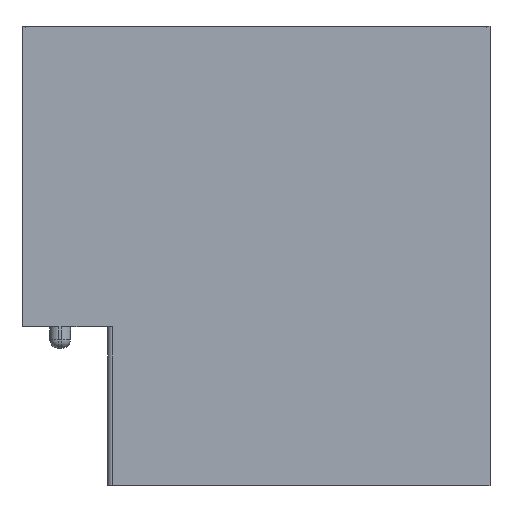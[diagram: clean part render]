
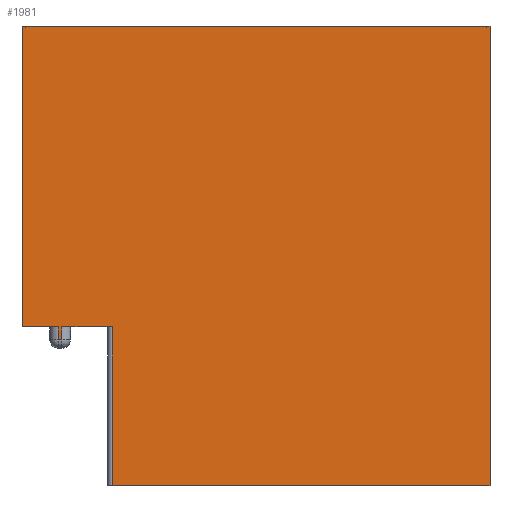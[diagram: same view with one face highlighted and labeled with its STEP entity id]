
A CAD part, front view. The second image highlights one B-rep face of the part: STEP entity #1981.
In plain terms, the highlighted planar face has unit normal (0, -1, 0).
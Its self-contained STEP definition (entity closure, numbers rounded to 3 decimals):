
#66=PLANE('',#2144);
#142=FACE_OUTER_BOUND('',#277,.T.);
#277=EDGE_LOOP('',(#1359,#1360,#1361,#1362,#1363,#1364,#1365,#1366,#1367,
#1368));
#420=LINE('',#3032,#601);
#422=LINE('',#3038,#603);
#423=LINE('',#3040,#604);
#424=LINE('',#3042,#605);
#425=LINE('',#3044,#606);
#426=LINE('',#3046,#607);
#427=LINE('',#3048,#608);
#428=LINE('',#3050,#609);
#429=LINE('',#3052,#610);
#430=LINE('',#3053,#611);
#601=VECTOR('',#2381,10.);
#603=VECTOR('',#2387,10.);
#604=VECTOR('',#2388,10.);
#605=VECTOR('',#2389,10.);
#606=VECTOR('',#2390,10.);
#607=VECTOR('',#2391,10.);
#608=VECTOR('',#2392,10.);
#609=VECTOR('',#2393,10.);
#610=VECTOR('',#2394,10.);
#611=VECTOR('',#2395,10.);
#886=VERTEX_POINT('',#3029);
#887=VERTEX_POINT('',#3031);
#889=VERTEX_POINT('',#3037);
#890=VERTEX_POINT('',#3039);
#891=VERTEX_POINT('',#3041);
#892=VERTEX_POINT('',#3043);
#893=VERTEX_POINT('',#3045);
#894=VERTEX_POINT('',#3047);
#895=VERTEX_POINT('',#3049);
#896=VERTEX_POINT('',#3051);
#1067=EDGE_CURVE('',#886,#887,#420,.T.);
#1070=EDGE_CURVE('',#889,#887,#422,.T.);
#1071=EDGE_CURVE('',#886,#890,#423,.T.);
#1072=EDGE_CURVE('',#890,#891,#424,.T.);
#1073=EDGE_CURVE('',#891,#892,#425,.T.);
#1074=EDGE_CURVE('',#892,#893,#426,.T.);
#1075=EDGE_CURVE('',#893,#894,#427,.T.);
#1076=EDGE_CURVE('',#895,#894,#428,.T.);
#1077=EDGE_CURVE('',#896,#895,#429,.T.);
#1078=EDGE_CURVE('',#889,#896,#430,.T.);
#1359=ORIENTED_EDGE('',*,*,#1070,.T.);
#1360=ORIENTED_EDGE('',*,*,#1067,.F.);
#1361=ORIENTED_EDGE('',*,*,#1071,.T.);
#1362=ORIENTED_EDGE('',*,*,#1072,.T.);
#1363=ORIENTED_EDGE('',*,*,#1073,.T.);
#1364=ORIENTED_EDGE('',*,*,#1074,.T.);
#1365=ORIENTED_EDGE('',*,*,#1075,.T.);
#1366=ORIENTED_EDGE('',*,*,#1076,.F.);
#1367=ORIENTED_EDGE('',*,*,#1077,.F.);
#1368=ORIENTED_EDGE('',*,*,#1078,.F.);
#1981=ADVANCED_FACE('',(#142),#66,.T.);
#2144=AXIS2_PLACEMENT_3D('',#3036,#2385,#2386);
#2381=DIRECTION('',(0.,0.,1.));
#2385=DIRECTION('center_axis',(0.,-1.,0.));
#2386=DIRECTION('ref_axis',(0.,0.,-1.));
#2387=DIRECTION('',(1.,0.,0.));
#2388=DIRECTION('',(1.,0.,0.));
#2389=DIRECTION('',(0.,0.,1.));
#2390=DIRECTION('',(-1.,0.,0.));
#2391=DIRECTION('',(0.,0.,-1.));
#2392=DIRECTION('',(1.,0.,0.));
#2393=DIRECTION('',(0.,0.,1.));
#2394=DIRECTION('',(-1.,0.,0.));
#2395=DIRECTION('',(0.,0.,-1.));
#3029=CARTESIAN_POINT('',(1.,-4.,0.));
#3031=CARTESIAN_POINT('',(1.,-4.,37.));
#3032=CARTESIAN_POINT('',(1.,-4.,26.75));
#3036=CARTESIAN_POINT('Origin',(34.5,-4.,53.5));
#3037=CARTESIAN_POINT('',(-10.7,-4.,37.));
#3038=CARTESIAN_POINT('',(-20.,-4.,37.));
#3039=CARTESIAN_POINT('',(89.,-4.,0.));
#3040=CARTESIAN_POINT('',(0.,-4.,0.));
#3041=CARTESIAN_POINT('',(89.,-4.,107.));
#3042=CARTESIAN_POINT('',(89.,-4.,0.));
#3043=CARTESIAN_POINT('',(-20.,-4.,107.));
#3044=CARTESIAN_POINT('',(89.,-4.,107.));
#3045=CARTESIAN_POINT('',(-20.,-4.,37.));
#3046=CARTESIAN_POINT('',(-20.,-4.,107.));
#3047=CARTESIAN_POINT('',(-11.5,-4.,37.));
#3048=CARTESIAN_POINT('',(-20.,-4.,37.));
#3049=CARTESIAN_POINT('',(-11.5,-4.,34.));
#3050=CARTESIAN_POINT('',(-11.5,-4.,45.25));
#3051=CARTESIAN_POINT('',(-10.7,-4.,34.));
#3052=CARTESIAN_POINT('',(11.7,-4.,34.));
#3053=CARTESIAN_POINT('',(-10.7,-4.,45.25));
